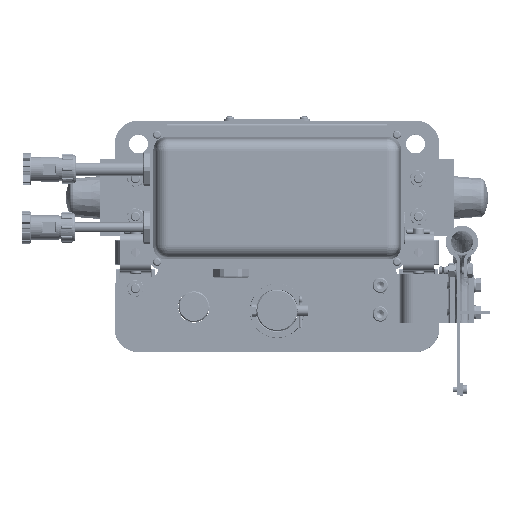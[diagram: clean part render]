
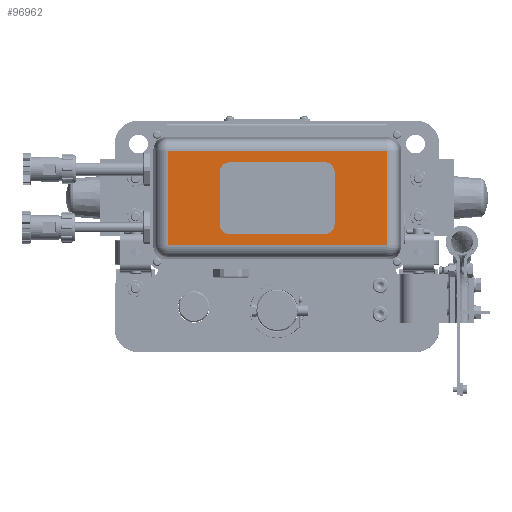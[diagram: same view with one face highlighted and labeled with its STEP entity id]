
A CAD part, top view. The second image highlights one B-rep face of the part: STEP entity #96962.
In plain terms, the highlighted planar face has unit normal (0, 0, 1) as drawn and (-1, 0, 0) by its records, which use the part's own axes.
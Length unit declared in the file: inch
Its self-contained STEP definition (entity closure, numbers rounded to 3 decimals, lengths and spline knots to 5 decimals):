
#3196 = EDGE_LOOP ( 'NONE', ( #91307, #79685, #72032, #15395 ) ) ;
#7086 = DIRECTION ( 'NONE',  ( 0., 0., 1. ) ) ;
#9944 = LINE ( 'NONE', #157585, #168877 ) ;
#15395 = ORIENTED_EDGE ( 'NONE', *, *, #205228, .T. ) ;
#23512 = VERTEX_POINT ( 'NONE', #108676 ) ;
#27237 = DIRECTION ( 'NONE',  ( 0., 0., -1. ) ) ;
#33641 = VECTOR ( 'NONE', #27237, 39.37008 ) ;
#34910 = CARTESIAN_POINT ( 'NONE',  ( -2.71654, -2.25031, 0.73446 ) ) ;
#40263 = CARTESIAN_POINT ( 'NONE',  ( -2.71654, -2.25031, 10.47244 ) ) ;
#49700 = VERTEX_POINT ( 'NONE', #144628 ) ;
#58268 = LINE ( 'NONE', #174849, #33641 ) ;
#58502 = VERTEX_POINT ( 'NONE', #102224 ) ;
#65610 = VECTOR ( 'NONE', #149403, 39.37008 ) ;
#72032 = ORIENTED_EDGE ( 'NONE', *, *, #198450, .T. ) ;
#79685 = ORIENTED_EDGE ( 'NONE', *, *, #149945, .T. ) ;
#91307 = ORIENTED_EDGE ( 'NONE', *, *, #160599, .T. ) ;
#96694 = CARTESIAN_POINT ( 'NONE',  ( -2.71654, 0.98144, 0.73446 ) ) ;
#96962 = ADVANCED_FACE ( 'NONE', ( #207127 ), #187871, .T. ) ;
#102224 = CARTESIAN_POINT ( 'NONE',  ( -2.71654, 4.84533, 0.73446 ) ) ;
#108676 = CARTESIAN_POINT ( 'NONE',  ( -2.71654, 4.84533, 9.75453 ) ) ;
#117266 = LINE ( 'NONE', #34910, #65610 ) ;
#139432 = DIRECTION ( 'NONE',  ( 0., 0., 1. ) ) ;
#144628 = CARTESIAN_POINT ( 'NONE',  ( -2.71654, 0.98144, 9.75453 ) ) ;
#149403 = DIRECTION ( 'NONE',  ( 0., -1., 0. ) ) ;
#149945 = EDGE_CURVE ( 'NONE', #49700, #23512, #166948, .T. ) ;
#154258 = VERTEX_POINT ( 'NONE', #96694 ) ;
#157585 = CARTESIAN_POINT ( 'NONE',  ( -2.71654, 0.98144, 10.47244 ) ) ;
#160599 = EDGE_CURVE ( 'NONE', #154258, #49700, #9944, .T. ) ;
#166948 = LINE ( 'NONE', #168007, #171645 ) ;
#168007 = CARTESIAN_POINT ( 'NONE',  ( -2.71654, 5.33958, 9.75453 ) ) ;
#168877 = VECTOR ( 'NONE', #139432, 39.37008 ) ;
#171645 = VECTOR ( 'NONE', #199110, 39.37008 ) ;
#173894 = DIRECTION ( 'NONE',  ( -1., 0., 0. ) ) ;
#174849 = CARTESIAN_POINT ( 'NONE',  ( -2.71654, 4.84533, 10.47244 ) ) ;
#187871 = PLANE ( 'NONE',  #189708 ) ;
#189708 = AXIS2_PLACEMENT_3D ( 'NONE', #40263, #173894, #7086 ) ;
#198450 = EDGE_CURVE ( 'NONE', #23512, #58502, #58268, .T. ) ;
#199110 = DIRECTION ( 'NONE',  ( 0., 1., 0. ) ) ;
#205228 = EDGE_CURVE ( 'NONE', #58502, #154258, #117266, .T. ) ;
#207127 = FACE_OUTER_BOUND ( 'NONE', #3196, .T. ) ;
